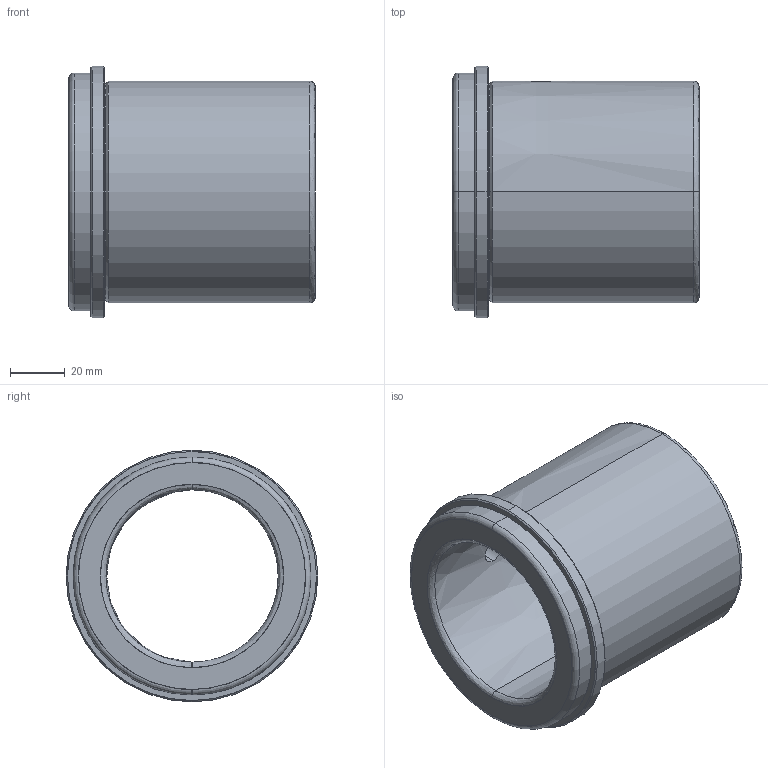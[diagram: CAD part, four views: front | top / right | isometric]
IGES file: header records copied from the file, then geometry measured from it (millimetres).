
Start section: START RECORD GO HERE.
Global section: file name: FAMO-SF1-B63 x 90.igs; native system: DASSAULT SYSTEMES CATIA V5 R20 - www.3ds.com; preprocessor: CATIA Version 5 Release 20 ; author: Utente; organization: NB04-ASUS; date: 20210106.175240; units: millimetre
Bounding box: 90 x 92 x 92 mm (x, y, z)
Surface area: 47968.4 mm2 (no closed solid volume)
Topology: 0 solids, 0 shells, 33 faces, 226 edges, 226 vertices
Faces by surface type: revolution 28, plane 5
